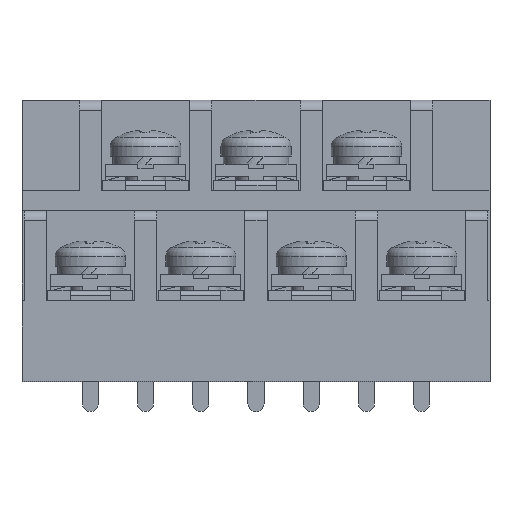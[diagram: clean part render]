
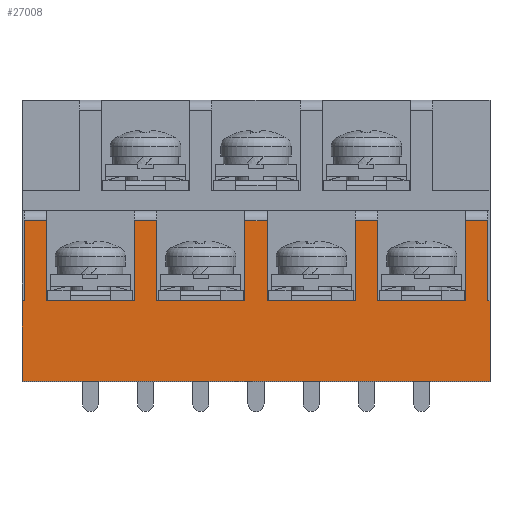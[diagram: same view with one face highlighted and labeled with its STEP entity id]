
A CAD part, top view. The second image highlights one B-rep face of the part: STEP entity #27008.
In plain terms, the highlighted planar face has unit normal (0, 0, 1).
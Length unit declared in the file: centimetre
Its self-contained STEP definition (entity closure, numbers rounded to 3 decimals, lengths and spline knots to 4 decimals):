
#1792=VERTEX_POINT('',#36109);
#1794=VERTEX_POINT('',#36113);
#1797=VERTEX_POINT('',#36123);
#1802=VERTEX_POINT('',#36136);
#1805=VERTEX_POINT('',#36143);
#1808=VERTEX_POINT('',#36149);
#1810=VERTEX_POINT('',#36157);
#1824=VERTEX_POINT('',#36190);
#1837=VERTEX_POINT('',#36222);
#1840=VERTEX_POINT('',#36228);
#1842=VERTEX_POINT('',#36234);
#1843=VERTEX_POINT('',#36238);
#1850=VERTEX_POINT('',#36257);
#1853=VERTEX_POINT('',#36263);
#1943=VERTEX_POINT('',#36556);
#1946=VERTEX_POINT('',#36566);
#1949=VERTEX_POINT('',#36572);
#1951=VERTEX_POINT('',#36578);
#1952=VERTEX_POINT('',#36582);
#2261=VERTEX_POINT('',#37568);
#2264=VERTEX_POINT('',#37574);
#2266=VERTEX_POINT('',#37580);
#2279=VERTEX_POINT('',#37614);
#2280=VERTEX_POINT('',#37616);
#4621=VECTOR('',#29937,1.);
#4626=VECTOR('',#29944,1.);
#4631=VECTOR('',#29952,1.);
#4636=VECTOR('',#29962,1.);
#4638=VECTOR('',#29966,1.);
#4641=VECTOR('',#29970,1.);
#4656=VECTOR('',#29987,1.);
#4671=VECTOR('',#30015,1.);
#4673=VECTOR('',#30021,1.);
#4675=VECTOR('',#30024,1.);
#4686=VECTOR('',#30040,1.);
#4688=VECTOR('',#30044,1.);
#4765=VECTOR('',#30256,1.);
#4771=VECTOR('',#30266,1.);
#4773=VECTOR('',#30272,1.);
#4775=VECTOR('',#30275,1.);
#4788=VECTOR('',#30290,1.);
#5115=VECTOR('',#30997,1.);
#5117=VECTOR('',#31003,1.);
#5118=VECTOR('',#31005,1.);
#5121=VECTOR('',#31009,1.);
#5134=VECTOR('',#31023,1.);
#5135=VECTOR('',#31024,1.);
#5136=VECTOR('',#31025,1.);
#7790=LINE('',#36114,#4621);
#7795=LINE('',#36125,#4626);
#7800=LINE('',#36135,#4631);
#7805=LINE('',#36150,#4636);
#7807=LINE('',#36153,#4638);
#7810=LINE('',#36159,#4641);
#7825=LINE('',#36189,#4656);
#7840=LINE('',#36229,#4671);
#7842=LINE('',#36235,#4673);
#7844=LINE('',#36240,#4675);
#7855=LINE('',#36264,#4686);
#7857=LINE('',#36267,#4688);
#7934=LINE('',#36558,#4765);
#7940=LINE('',#36573,#4771);
#7942=LINE('',#36579,#4773);
#7944=LINE('',#36584,#4775);
#7957=LINE('',#36607,#4788);
#8284=LINE('',#37575,#5115);
#8286=LINE('',#37581,#5117);
#8287=LINE('',#37583,#5118);
#8290=LINE('',#37587,#5121);
#8303=LINE('',#37613,#5134);
#8304=LINE('',#37615,#5135);
#8305=LINE('',#37617,#5136);
#11067=EDGE_CURVE('',#1794,#1792,#7790,.T.);
#11072=EDGE_CURVE('',#1794,#1797,#7795,.T.);
#11078=EDGE_CURVE('',#1792,#1802,#7800,.T.);
#11085=EDGE_CURVE('',#1805,#1808,#7805,.T.);
#11087=EDGE_CURVE('',#1802,#1808,#7807,.T.);
#11090=EDGE_CURVE('',#1805,#1810,#7810,.T.);
#11105=EDGE_CURVE('',#1810,#1824,#7825,.T.);
#11124=EDGE_CURVE('',#1837,#1840,#7840,.T.);
#11127=EDGE_CURVE('',#1842,#1840,#7842,.T.);
#11129=EDGE_CURVE('',#1843,#1842,#7844,.T.);
#11141=EDGE_CURVE('',#1850,#1853,#7855,.T.);
#11143=EDGE_CURVE('',#1824,#1853,#7857,.T.);
#11267=EDGE_CURVE('',#1850,#1943,#7934,.T.);
#11274=EDGE_CURVE('',#1946,#1949,#7940,.T.);
#11277=EDGE_CURVE('',#1951,#1949,#7942,.T.);
#11279=EDGE_CURVE('',#1952,#1951,#7944,.T.);
#11292=EDGE_CURVE('',#1946,#1843,#7957,.T.);
#11753=EDGE_CURVE('',#2261,#2264,#8284,.T.);
#11756=EDGE_CURVE('',#2266,#2264,#8286,.T.);
#11757=EDGE_CURVE('',#1943,#2266,#8287,.T.);
#11760=EDGE_CURVE('',#2261,#1952,#8290,.T.);
#11773=EDGE_CURVE('',#1797,#2279,#8303,.T.);
#11774=EDGE_CURVE('',#2279,#2280,#8304,.T.);
#11775=EDGE_CURVE('',#1837,#2280,#8305,.T.);
#17063=ORIENTED_EDGE('',*,*,#11773,.T.);
#17064=ORIENTED_EDGE('',*,*,#11774,.T.);
#17065=ORIENTED_EDGE('',*,*,#11775,.F.);
#17066=ORIENTED_EDGE('',*,*,#11124,.T.);
#17067=ORIENTED_EDGE('',*,*,#11127,.F.);
#17068=ORIENTED_EDGE('',*,*,#11129,.F.);
#17069=ORIENTED_EDGE('',*,*,#11292,.F.);
#17070=ORIENTED_EDGE('',*,*,#11274,.T.);
#17071=ORIENTED_EDGE('',*,*,#11277,.F.);
#17072=ORIENTED_EDGE('',*,*,#11279,.F.);
#17073=ORIENTED_EDGE('',*,*,#11760,.F.);
#17074=ORIENTED_EDGE('',*,*,#11753,.T.);
#17075=ORIENTED_EDGE('',*,*,#11756,.F.);
#17076=ORIENTED_EDGE('',*,*,#11757,.F.);
#17077=ORIENTED_EDGE('',*,*,#11267,.F.);
#17078=ORIENTED_EDGE('',*,*,#11141,.T.);
#17079=ORIENTED_EDGE('',*,*,#11143,.F.);
#17080=ORIENTED_EDGE('',*,*,#11105,.F.);
#17081=ORIENTED_EDGE('',*,*,#11090,.F.);
#17082=ORIENTED_EDGE('',*,*,#11085,.T.);
#17083=ORIENTED_EDGE('',*,*,#11087,.F.);
#17084=ORIENTED_EDGE('',*,*,#11078,.F.);
#17085=ORIENTED_EDGE('',*,*,#11067,.F.);
#17086=ORIENTED_EDGE('',*,*,#11072,.T.);
#23583=EDGE_LOOP('',(#17063,#17064,#17065,#17066,#17067,#17068,#17069,#17070,
#17071,#17072,#17073,#17074,#17075,#17076,#17077,#17078,#17079,#17080,#17081,
#17082,#17083,#17084,#17085,#17086));
#25322=FACE_BOUND('',#23583,.T.);
#27008=ADVANCED_FACE('',(#25322),#28496,.T.);
#28496=PLANE('',#46001);
#29937=DIRECTION('',(1.,0.,0.));
#29944=DIRECTION('',(0.,-1.,0.));
#29952=DIRECTION('',(0.,1.,0.));
#29962=DIRECTION('',(0.,1.,0.));
#29966=DIRECTION('',(1.,0.,0.));
#29970=DIRECTION('',(1.,0.,0.));
#29987=DIRECTION('',(0.,1.,0.));
#30015=DIRECTION('',(0.,1.,0.));
#30021=DIRECTION('',(1.,0.,0.));
#30024=DIRECTION('',(0.,1.,0.));
#30040=DIRECTION('',(0.,1.,0.));
#30044=DIRECTION('',(1.,0.,0.));
#30256=DIRECTION('',(1.,0.,0.));
#30266=DIRECTION('',(0.,1.,0.));
#30272=DIRECTION('',(1.,0.,0.));
#30275=DIRECTION('',(0.,1.,0.));
#30290=DIRECTION('',(1.,0.,0.));
#30997=DIRECTION('',(0.,1.,0.));
#31003=DIRECTION('',(1.,0.,0.));
#31005=DIRECTION('',(0.,1.,0.));
#31009=DIRECTION('',(1.,0.,0.));
#31022=DIRECTION('',(0.,0.,1.));
#31023=DIRECTION('',(1.,0.,0.));
#31024=DIRECTION('',(0.,1.,0.));
#31025=DIRECTION('',(1.,0.,0.));
#36109=CARTESIAN_POINT('',(-2.31,-1.245,1.75));
#36113=CARTESIAN_POINT('',(-2.33,-1.245,1.75));
#36114=CARTESIAN_POINT('',(-2.33,-1.245,1.75));
#36123=CARTESIAN_POINT('',(-2.33,-2.045,1.75));
#36125=CARTESIAN_POINT('',(-2.33,-1.245,1.75));
#36135=CARTESIAN_POINT('',(-2.31,-2.045,1.75));
#36136=CARTESIAN_POINT('',(-2.31,-0.445,1.75));
#36143=CARTESIAN_POINT('',(-2.09,-1.245,1.75));
#36149=CARTESIAN_POINT('',(-2.09,-0.445,1.75));
#36150=CARTESIAN_POINT('',(-2.09,-2.045,1.75));
#36153=CARTESIAN_POINT('',(-2.31,-0.445,1.75));
#36157=CARTESIAN_POINT('',(-1.21,-1.245,1.75));
#36159=CARTESIAN_POINT('',(-2.09,-1.245,1.75));
#36189=CARTESIAN_POINT('',(-1.21,-2.045,1.75));
#36190=CARTESIAN_POINT('',(-1.21,-0.445,1.75));
#36222=CARTESIAN_POINT('',(2.31,-1.245,1.75));
#36228=CARTESIAN_POINT('',(2.31,-0.445,1.75));
#36229=CARTESIAN_POINT('',(2.31,-2.045,1.75));
#36234=CARTESIAN_POINT('',(2.09,-0.445,1.75));
#36235=CARTESIAN_POINT('',(2.09,-0.445,1.75));
#36238=CARTESIAN_POINT('',(2.09,-1.245,1.75));
#36240=CARTESIAN_POINT('',(2.09,-2.045,1.75));
#36257=CARTESIAN_POINT('',(-0.99,-1.245,1.75));
#36263=CARTESIAN_POINT('',(-0.99,-0.445,1.75));
#36264=CARTESIAN_POINT('',(-0.99,-2.045,1.75));
#36267=CARTESIAN_POINT('',(-1.21,-0.445,1.75));
#36556=CARTESIAN_POINT('',(-0.11,-1.245,1.75));
#36558=CARTESIAN_POINT('',(-0.99,-1.245,1.75));
#36566=CARTESIAN_POINT('',(1.21,-1.245,1.75));
#36572=CARTESIAN_POINT('',(1.21,-0.445,1.75));
#36573=CARTESIAN_POINT('',(1.21,-2.045,1.75));
#36578=CARTESIAN_POINT('',(0.99,-0.445,1.75));
#36579=CARTESIAN_POINT('',(0.99,-0.445,1.75));
#36582=CARTESIAN_POINT('',(0.99,-1.245,1.75));
#36584=CARTESIAN_POINT('',(0.99,-2.045,1.75));
#36607=CARTESIAN_POINT('',(1.21,-1.245,1.75));
#37568=CARTESIAN_POINT('',(0.11,-1.245,1.75));
#37574=CARTESIAN_POINT('',(0.11,-0.445,1.75));
#37575=CARTESIAN_POINT('',(0.11,-2.045,1.75));
#37580=CARTESIAN_POINT('',(-0.11,-0.445,1.75));
#37581=CARTESIAN_POINT('',(-0.11,-0.445,1.75));
#37583=CARTESIAN_POINT('',(-0.11,-2.045,1.75));
#37587=CARTESIAN_POINT('',(0.11,-1.245,1.75));
#37612=CARTESIAN_POINT('',(0.11,-1.645,1.75));
#37613=CARTESIAN_POINT('',(-0.99,-2.045,1.75));
#37614=CARTESIAN_POINT('',(2.33,-2.045,1.75));
#37615=CARTESIAN_POINT('',(2.33,-1.245,1.75));
#37616=CARTESIAN_POINT('',(2.33,-1.245,1.75));
#37617=CARTESIAN_POINT('',(2.31,-1.245,1.75));
#46001=AXIS2_PLACEMENT_3D('',#37612,#31022,$);
